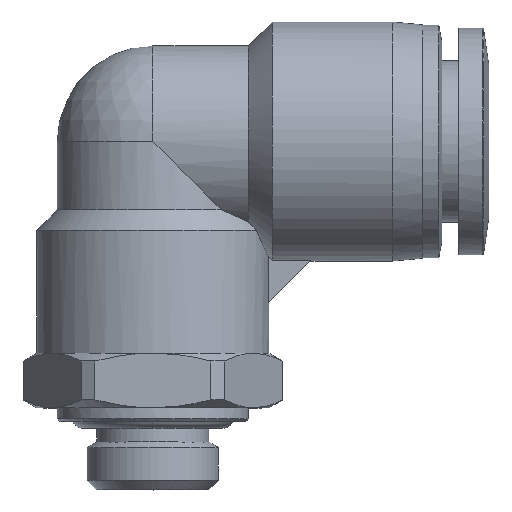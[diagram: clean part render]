
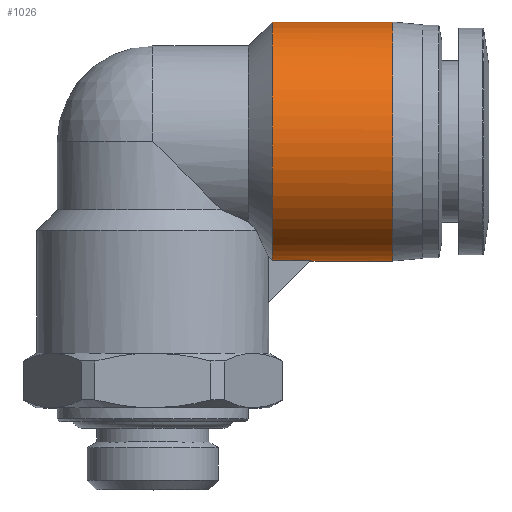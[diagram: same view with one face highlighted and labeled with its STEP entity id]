
A CAD part, top view. The second image highlights one B-rep face of the part: STEP entity #1026.
In plain terms, the highlighted cylindrical face has radius 8.75 mm (diameter 17.5 mm), a partial arc.
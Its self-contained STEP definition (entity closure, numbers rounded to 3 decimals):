
#124 = CARTESIAN_POINT ( 'NONE',  ( 8.75, 24.25, 0. ) ) ;
#129 = CARTESIAN_POINT ( 'NONE',  ( 8.75, 6.933, 2.096 ) ) ;
#276 = CARTESIAN_POINT ( 'NONE',  ( 11.519, 6.769, 0.667 ) ) ;
#356 = CARTESIAN_POINT ( 'NONE',  ( 17.55, 16.645, 8.75 ) ) ;
#366 = CARTESIAN_POINT ( 'NONE',  ( 11.5, 6.75, 0. ) ) ;
#451 = ORIENTED_EDGE ( 'NONE', *, *, #667, .F. ) ;
#474 = CYLINDRICAL_SURFACE ( 'NONE', #916, 8.75 ) ;
#484 = CARTESIAN_POINT ( 'NONE',  ( 8.75, 24.039, 2.207 ) ) ;
#587 = B_SPLINE_CURVE_WITH_KNOTS ( 'NONE', 3,
 ( #858, #1576, #484, #3655, #812, #4019, #835, #3015, #2269, #3033, #4390, #2681, #2247, #2659, #1921, #3677, #129, #1601 ),
 .UNSPECIFIED., .F., .F.,
 ( 4, 2, 2, 2, 2, 2, 2, 2, 4 ),
 ( 0.5, 0.563, 0.625, 0.688, 0.75, 0.813, 0.875, 0.938, 1. ),
 .UNSPECIFIED. ) ;
#667 = EDGE_CURVE ( 'NONE', #2272, #3687, #4348, .T. ) ;
#756 = CARTESIAN_POINT ( 'NONE',  ( 17.55, 6.75, 1.145 ) ) ;
#793 = VERTEX_POINT ( 'NONE', #124 ) ;
#812 = CARTESIAN_POINT ( 'NONE',  ( 8.75, 22.619, 5.205 ) ) ;
#835 = CARTESIAN_POINT ( 'NONE',  ( 8.75, 20.193, 7.467 ) ) ;
#858 = CARTESIAN_POINT ( 'NONE',  ( 8.75, 24.25, 0. ) ) ;
#916 = AXIS2_PLACEMENT_3D ( 'NONE', #2632, #1547, #3335 ) ;
#929 = VERTEX_POINT ( 'NONE', #1781 ) ;
#952 = VERTEX_POINT ( 'NONE', #4423 ) ;
#1026 = ADVANCED_FACE ( 'NONE', ( #3383 ), #474, .T. ) ;
#1048 = CARTESIAN_POINT ( 'NONE',  ( 11.557, 6.807, 1. ) ) ;
#1062 = ORIENTED_EDGE ( 'NONE', *, *, #1986, .T. ) ;
#1085 = CARTESIAN_POINT ( 'NONE',  ( 17.55, 11.093, 7.646 ) ) ;
#1343 = ORIENTED_EDGE ( 'NONE', *, *, #3479, .T. ) ;
#1362 = CARTESIAN_POINT ( 'NONE',  ( 17.55, 20.877, 6.997 ) ) ;
#1363 = CARTESIAN_POINT ( 'NONE',  ( 17.55, 6.75, 0. ) ) ;
#1414 = EDGE_CURVE ( 'NONE', #793, #2272, #1932, .T. ) ;
#1544 = EDGE_LOOP ( 'NONE', ( #2366, #1343, #451, #2849, #4354, #1062 ) ) ;
#1547 = DIRECTION ( 'NONE',  ( 1., 0., 0. ) ) ;
#1576 = CARTESIAN_POINT ( 'NONE',  ( 8.75, 24.25, 1.104 ) ) ;
#1601 = CARTESIAN_POINT ( 'NONE',  ( 8.75, 6.807, 1. ) ) ;
#1777 = CARTESIAN_POINT ( 'NONE',  ( 17.55, 6.75, 0. ) ) ;
#1781 = CARTESIAN_POINT ( 'NONE',  ( 11.5, 6.75, 0. ) ) ;
#1800 = CARTESIAN_POINT ( 'NONE',  ( 17.55, 13.21, 8.522 ) ) ;
#1921 = CARTESIAN_POINT ( 'NONE',  ( 8.75, 8.314, 5.113 ) ) ;
#1932 = LINE ( 'NONE', #2257, #4408 ) ;
#1986 = EDGE_CURVE ( 'NONE', #952, #2522, #3649, .T. ) ;
#1989 = CARTESIAN_POINT ( 'NONE',  ( 17.55, 24.25, 0. ) ) ;
#2128 = CARTESIAN_POINT ( 'NONE',  ( 17.55, 14.355, 8.75 ) ) ;
#2243 = DIRECTION ( 'NONE',  ( 1., 0., 0. ) ) ;
#2247 = CARTESIAN_POINT ( 'NONE',  ( 8.75, 10.711, 7.406 ) ) ;
#2257 = CARTESIAN_POINT ( 'NONE',  ( 13.15, 24.25, 0. ) ) ;
#2269 = CARTESIAN_POINT ( 'NONE',  ( 8.75, 17.103, 8.672 ) ) ;
#2272 = VERTEX_POINT ( 'NONE', #1989 ) ;
#2366 = ORIENTED_EDGE ( 'NONE', *, *, #4160, .F. ) ;
#2426 = CARTESIAN_POINT ( 'NONE',  ( 17.55, 8.503, 5.377 ) ) ;
#2445 = CARTESIAN_POINT ( 'NONE',  ( 17.55, 10.123, 6.997 ) ) ;
#2463 = VECTOR ( 'NONE', #2243, 1000. ) ;
#2522 = VERTEX_POINT ( 'NONE', #2906 ) ;
#2553 = EDGE_CURVE ( 'NONE', #793, #952, #587, .T. ) ;
#2632 = CARTESIAN_POINT ( 'NONE',  ( 13.15, 15.5, 0. ) ) ;
#2659 = CARTESIAN_POINT ( 'NONE',  ( 8.75, 9.022, 5.985 ) ) ;
#2681 = CARTESIAN_POINT ( 'NONE',  ( 8.75, 11.691, 7.954 ) ) ;
#2725 = CARTESIAN_POINT ( 'NONE',  ( 17.55, 24.25, 0. ) ) ;
#2777 = CARTESIAN_POINT ( 'NONE',  ( 17.55, 19.907, 7.646 ) ) ;
#2787 = CARTESIAN_POINT ( 'NONE',  ( 8.75, 6.807, 1. ) ) ;
#2811 = CARTESIAN_POINT ( 'NONE',  ( 10.622, 6.807, 1. ) ) ;
#2849 = ORIENTED_EDGE ( 'NONE', *, *, #1414, .F. ) ;
#2855 = CARTESIAN_POINT ( 'NONE',  ( 13.15, 6.75, 0. ) ) ;
#2882 = LINE ( 'NONE', #2855, #2463 ) ;
#2906 = CARTESIAN_POINT ( 'NONE',  ( 11.557, 6.807, 1. ) ) ;
#3015 = CARTESIAN_POINT ( 'NONE',  ( 8.75, 18.192, 8.398 ) ) ;
#3033 = CARTESIAN_POINT ( 'NONE',  ( 8.75, 14.899, 8.799 ) ) ;
#3195 = CARTESIAN_POINT ( 'NONE',  ( 17.55, 17.79, 8.522 ) ) ;
#3221 = CARTESIAN_POINT ( 'NONE',  ( 17.55, 22.497, 5.377 ) ) ;
#3335 = DIRECTION ( 'NONE',  ( 0., 1., 0. ) ) ;
#3383 = FACE_OUTER_BOUND ( 'NONE', #1544, .T. ) ;
#3479 = EDGE_CURVE ( 'NONE', #929, #3687, #2882, .T. ) ;
#3547 = CARTESIAN_POINT ( 'NONE',  ( 17.55, 6.978, 2.29 ) ) ;
#3649 = B_SPLINE_CURVE_WITH_KNOTS ( 'NONE', 3,
 ( #2787, #4580, #2811, #4482 ),
 .UNSPECIFIED., .F., .F.,
 ( 4, 4 ),
 ( 0., 1. ),
 .UNSPECIFIED. ) ;
#3655 = CARTESIAN_POINT ( 'NONE',  ( 8.75, 23.223, 4.258 ) ) ;
#3677 = CARTESIAN_POINT ( 'NONE',  ( 8.75, 7.269, 3.168 ) ) ;
#3687 = VERTEX_POINT ( 'NONE', #1363 ) ;
#3896 = CARTESIAN_POINT ( 'NONE',  ( 17.55, 23.146, 4.407 ) ) ;
#3920 = CARTESIAN_POINT ( 'NONE',  ( 17.55, 7.854, 4.407 ) ) ;
#4019 = CARTESIAN_POINT ( 'NONE',  ( 8.75, 21.104, 6.81 ) ) ;
#4149 = B_SPLINE_CURVE_WITH_KNOTS ( 'NONE', 3,
 ( #366, #4159, #276, #1048 ),
 .UNSPECIFIED., .F., .F.,
 ( 4, 4 ),
 ( 0.5, 1. ),
 .UNSPECIFIED. ) ;
#4159 = CARTESIAN_POINT ( 'NONE',  ( 11.5, 6.75, 0.333 ) ) ;
#4160 = EDGE_CURVE ( 'NONE', #929, #2522, #4149, .T. ) ;
#4348 = B_SPLINE_CURVE_WITH_KNOTS ( 'NONE', 3,
 ( #2725, #4546, #4593, #3896, #3221, #1362, #2777, #3195, #356, #2128, #1800, #1085, #2445, #2426, #3920, #3547, #756, #1777 ),
 .UNSPECIFIED., .F., .F.,
 ( 4, 2, 2, 2, 2, 2, 2, 2, 4 ),
 ( 0., 0.062, 0.125, 0.187, 0.25, 0.312, 0.375, 0.438, 0.5 ),
 .UNSPECIFIED. ) ;
#4354 = ORIENTED_EDGE ( 'NONE', *, *, #2553, .T. ) ;
#4357 = DIRECTION ( 'NONE',  ( 1., 0., 0. ) ) ;
#4390 = CARTESIAN_POINT ( 'NONE',  ( 8.75, 13.785, 8.651 ) ) ;
#4408 = VECTOR ( 'NONE', #4357, 1000. ) ;
#4423 = CARTESIAN_POINT ( 'NONE',  ( 8.75, 6.807, 1. ) ) ;
#4482 = CARTESIAN_POINT ( 'NONE',  ( 11.557, 6.807, 1. ) ) ;
#4546 = CARTESIAN_POINT ( 'NONE',  ( 17.55, 24.25, 1.145 ) ) ;
#4580 = CARTESIAN_POINT ( 'NONE',  ( 9.686, 6.807, 1. ) ) ;
#4593 = CARTESIAN_POINT ( 'NONE',  ( 17.55, 24.022, 2.29 ) ) ;
